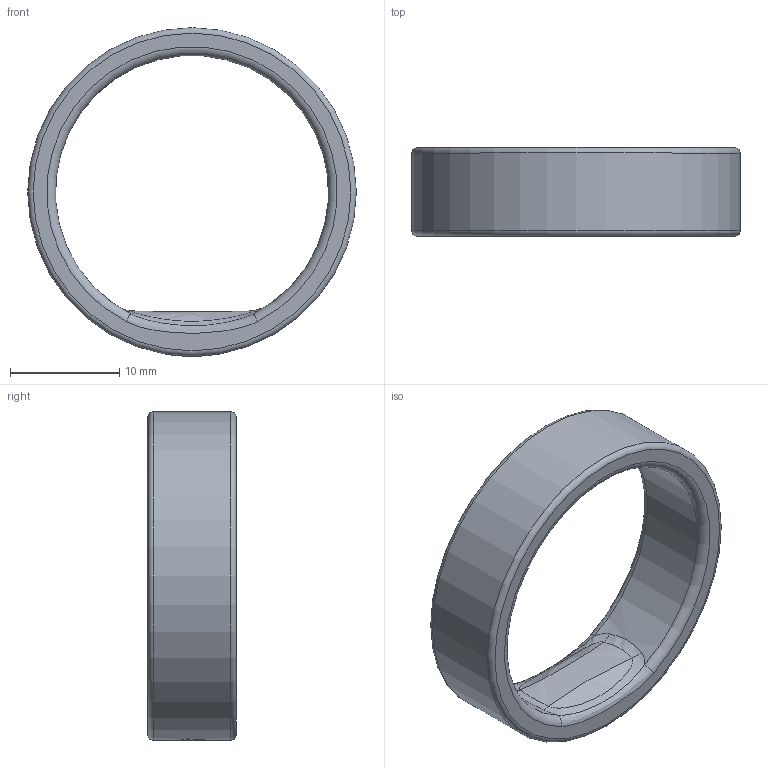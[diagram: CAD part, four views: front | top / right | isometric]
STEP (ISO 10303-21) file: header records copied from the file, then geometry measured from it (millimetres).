
FILE_DESCRIPTION(/* description */ (''),/* implementation_level */ '2;1');
FILE_NAME(/* name */ 'Size 14_Sizing Kit v4.step',/* time_stamp */ '2024-05-07T15:34:20+05:30',/* author */ (''),/* organization */ (''),/* preprocessor_version */ 'ST-DEVELOPER v20',/* originating_system */ 'Autodesk Translation Framework v12.20.1.177',/* authorisation */ '');
FILE_SCHEMA (('AUTOMOTIVE_DESIGN { 1 0 10303 214 3 1 1 }'));
Length unit declared in the file: millimetre
Products named in the file (1): Size 14_Sizing Kit
Bounding box: 30.09 x 8.1 x 30.09 mm (x, y, z)
Volume: 1821 mm3; surface area: 1857.1 mm2
Topology: 1 solids, 1 shells, 75 faces, 209 edges, 142 vertices
Faces by surface type: bspline 38, plane 28, cylinder 5, torus 4
Full cylindrical faces by diameter (mm): 28.168 x1, 28.169 x1, 30.088 x1
Entity records: 4261 total; most frequent: CARTESIAN_POINT 2535, ORIENTED_EDGE 418, DIRECTION 234, EDGE_CURVE 209, VERTEX_POINT 142, B_SPLINE_CURVE_WITH_KNOTS 93, EDGE_LOOP 83, AXIS2_PLACEMENT_3D 80
